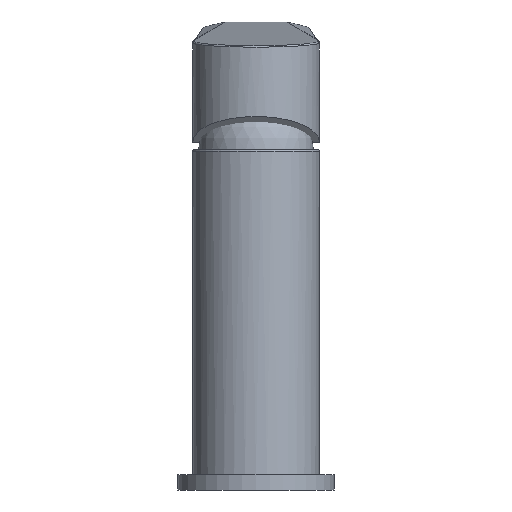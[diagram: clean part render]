
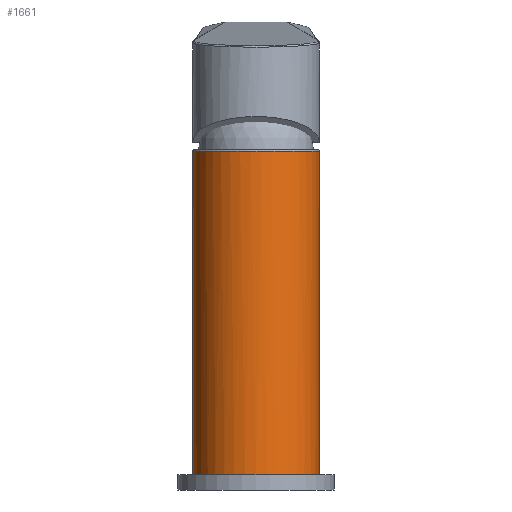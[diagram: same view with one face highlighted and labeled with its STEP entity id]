
A CAD part, left-side view. The second image highlights one B-rep face of the part: STEP entity #1661.
In plain terms, the highlighted cylindrical face has radius 21 mm (diameter 42 mm), a full revolution.
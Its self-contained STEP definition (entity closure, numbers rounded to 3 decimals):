
#341=CYLINDRICAL_SURFACE('',#22796,21.);
#417=B_SPLINE_CURVE_WITH_KNOTS('',3,(#32208,#32209,#32210,#32211,#32212,
#32213,#32214,#32215),.UNSPECIFIED.,.F.,.F.,(4,2,2,4),(0.,0.25,0.5,
1.),.UNSPECIFIED.);
#418=B_SPLINE_CURVE_WITH_KNOTS('',3,(#32223,#32224,#32225,#32226,#32227,
#32228,#32229,#32230),.UNSPECIFIED.,.F.,.F.,(4,2,2,4),(0.,0.5,0.75,1.),
 .UNSPECIFIED.);
#451=ELLIPSE('',#22793,21.025,21.);
#452=ELLIPSE('',#22795,21.025,21.);
#491=CIRCLE('',#22791,21.);
#492=CIRCLE('',#22794,21.);
#1661=ADVANCED_FACE('',(#4088),#341,.T.);
#4088=FACE_OUTER_BOUND('',#5356,.T.);
#5356=EDGE_LOOP('',(#6809,#6810,#6811,#6812,#6813,#6814,#6815,#6816,#6817,
#6818));
#6809=ORIENTED_EDGE('',*,*,#15488,.T.);
#6810=ORIENTED_EDGE('',*,*,#15489,.T.);
#6811=ORIENTED_EDGE('',*,*,#15490,.T.);
#6812=ORIENTED_EDGE('',*,*,#15491,.T.);
#6813=ORIENTED_EDGE('',*,*,#15492,.F.);
#6814=ORIENTED_EDGE('',*,*,#15493,.T.);
#6815=ORIENTED_EDGE('',*,*,#15494,.T.);
#6816=ORIENTED_EDGE('',*,*,#15495,.T.);
#6817=ORIENTED_EDGE('',*,*,#15487,.F.);
#6818=ORIENTED_EDGE('',*,*,#15495,.F.);
#13332=VERTEX_POINT('',#32203);
#13333=VERTEX_POINT('',#32206);
#13334=VERTEX_POINT('',#32207);
#13335=VERTEX_POINT('',#32216);
#13336=VERTEX_POINT('',#32218);
#13337=VERTEX_POINT('',#32220);
#13338=VERTEX_POINT('',#32222);
#13339=VERTEX_POINT('',#32231);
#15487=EDGE_CURVE('',#13332,#13332,#491,.T.);
#15488=EDGE_CURVE('',#13333,#13334,#451,.T.);
#15489=EDGE_CURVE('',#13334,#13335,#417,.T.);
#15490=EDGE_CURVE('',#13335,#13336,#18746,.T.);
#15491=EDGE_CURVE('',#13336,#13337,#492,.T.);
#15492=EDGE_CURVE('',#13338,#13337,#18747,.T.);
#15493=EDGE_CURVE('',#13338,#13339,#418,.T.);
#15494=EDGE_CURVE('',#13339,#13333,#452,.T.);
#15495=EDGE_CURVE('',#13333,#13332,#18748,.T.);
#18746=LINE('',#32217,#20770);
#18747=LINE('',#32221,#20771);
#18748=LINE('',#32233,#20772);
#20770=VECTOR('',#25268,1.);
#20771=VECTOR('',#25271,1.);
#20772=VECTOR('',#25274,1.);
#22791=AXIS2_PLACEMENT_3D('',#32202,#25262,#25263);
#22793=AXIS2_PLACEMENT_3D('',#32205,#25266,#25267);
#22794=AXIS2_PLACEMENT_3D('',#32219,#25269,#25270);
#22795=AXIS2_PLACEMENT_3D('',#32232,#25272,#25273);
#22796=AXIS2_PLACEMENT_3D('',#32234,#25275,#25276);
#25262=DIRECTION('',(0.,0.,-1.));
#25263=DIRECTION('',(1.,0.,0.));
#25266=DIRECTION('',(0.049,0.,-0.999));
#25267=DIRECTION('',(0.999,0.,0.049));
#25268=DIRECTION('',(0.,0.,1.));
#25269=DIRECTION('',(0.,0.,-1.));
#25270=DIRECTION('',(-1.,0.,0.));
#25271=DIRECTION('',(0.,0.,1.));
#25272=DIRECTION('',(0.049,0.,-0.999));
#25273=DIRECTION('',(0.999,0.,0.049));
#25274=DIRECTION('',(0.,0.,-1.));
#25275=DIRECTION('',(0.,0.,1.));
#25276=DIRECTION('',(1.,0.,0.));
#32202=CARTESIAN_POINT('',(0.,0.,0.));
#32203=CARTESIAN_POINT('',(21.,0.,0.));
#32205=CARTESIAN_POINT('',(0.,0.,81.252));
#32206=CARTESIAN_POINT('',(21.,0.,82.278));
#32207=CARTESIAN_POINT('',(15.098,-14.597,81.99));
#32208=CARTESIAN_POINT('',(15.098,-14.597,81.99));
#32209=CARTESIAN_POINT('',(14.004,-15.727,81.936));
#32210=CARTESIAN_POINT('',(12.831,-16.689,82.272));
#32211=CARTESIAN_POINT('',(10.383,-18.312,83.292));
#32212=CARTESIAN_POINT('',(9.157,-18.947,83.963));
#32213=CARTESIAN_POINT('',(5.412,-20.469,86.212));
#32214=CARTESIAN_POINT('',(2.872,-20.955,88.008));
#32215=CARTESIAN_POINT('',(0.353,-20.997,89.769));
#32216=CARTESIAN_POINT('',(0.353,-20.997,89.769));
#32217=CARTESIAN_POINT('',(0.353,-20.997,-16.5));
#32218=CARTESIAN_POINT('',(0.353,-20.997,107.5));
#32219=CARTESIAN_POINT('',(0.,0.,107.5));
#32220=CARTESIAN_POINT('',(0.353,20.997,107.5));
#32221=CARTESIAN_POINT('',(0.353,20.997,-16.5));
#32222=CARTESIAN_POINT('',(0.353,20.997,89.769));
#32223=CARTESIAN_POINT('',(0.353,20.997,89.769));
#32224=CARTESIAN_POINT('',(2.872,20.955,88.008));
#32225=CARTESIAN_POINT('',(5.412,20.469,86.212));
#32226=CARTESIAN_POINT('',(9.157,18.947,83.963));
#32227=CARTESIAN_POINT('',(10.383,18.312,83.292));
#32228=CARTESIAN_POINT('',(12.831,16.689,82.272));
#32229=CARTESIAN_POINT('',(14.004,15.727,81.936));
#32230=CARTESIAN_POINT('',(15.098,14.597,81.99));
#32231=CARTESIAN_POINT('',(15.098,14.597,81.99));
#32232=CARTESIAN_POINT('',(0.,0.,81.252));
#32233=CARTESIAN_POINT('',(21.,0.,90.));
#32234=CARTESIAN_POINT('',(0.,0.,0.));
